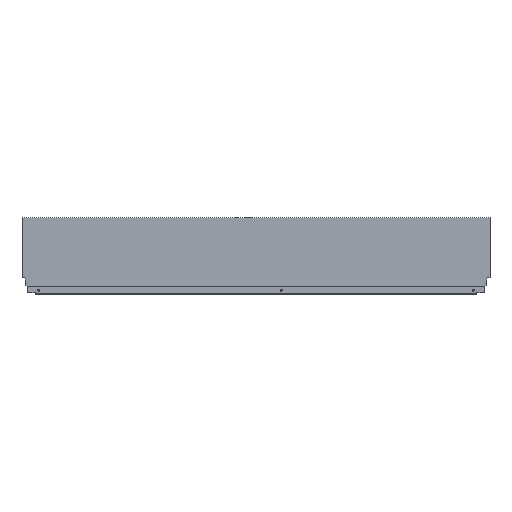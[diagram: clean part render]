
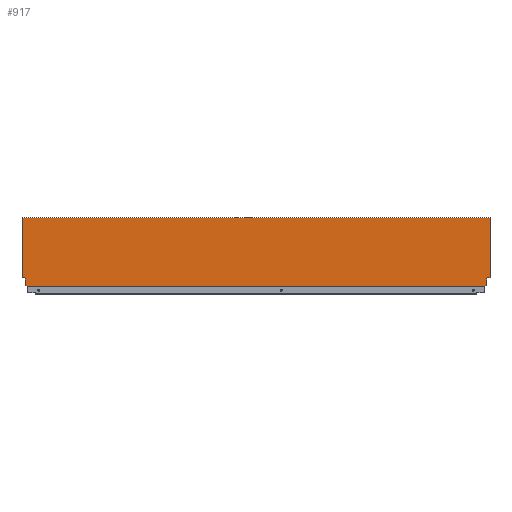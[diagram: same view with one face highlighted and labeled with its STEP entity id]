
A CAD part, top view. The second image highlights one B-rep face of the part: STEP entity #917.
In plain terms, the highlighted planar face has unit normal (0, 0, 1).
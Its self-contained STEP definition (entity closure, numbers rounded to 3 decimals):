
#12 = CARTESIAN_POINT ( 'NONE',  ( -13.004, 1.146, 7.5 ) ) ;
#13 = DIRECTION ( 'NONE',  ( 1., 0., 0. ) ) ;
#14 = CARTESIAN_POINT ( 'NONE',  ( -1117., 164.7, 7.5 ) ) ;
#17 = DIRECTION ( 'NONE',  ( -1., 0., 0. ) ) ;
#19 = CARTESIAN_POINT ( 'NONE',  ( 0., 21.2, 7.5 ) ) ;
#20 = CARTESIAN_POINT ( 'NONE',  ( -7.06, 21.2, 7.5 ) ) ;
#22 = CARTESIAN_POINT ( 'NONE',  ( 0., 0., 7.5 ) ) ;
#23 = DIRECTION ( 'NONE',  ( -0.174, -0.985, 0. ) ) ;
#24 = CARTESIAN_POINT ( 'NONE',  ( -8.9, 10.765, 7.5 ) ) ;
#25 = DIRECTION ( 'NONE',  ( 0., -1., 0. ) ) ;
#26 = CARTESIAN_POINT ( 'NONE',  ( -1122., 21.2, 7.5 ) ) ;
#27 = DIRECTION ( 'NONE',  ( -1., 0., 0. ) ) ;
#28 = CARTESIAN_POINT ( 'NONE',  ( -1117., 0., 7.5 ) ) ;
#30 = CARTESIAN_POINT ( 'NONE',  ( -1108.1, 2.64, 7.5 ) ) ;
#33 = DIRECTION ( 'NONE',  ( 0., -1., 0. ) ) ;
#34 = DIRECTION ( 'NONE',  ( -0.94, 0.342, 0. ) ) ;
#35 = CARTESIAN_POINT ( 'NONE',  ( -1108.1, 10.765, 7.5 ) ) ;
#161 = DIRECTION ( 'NONE',  ( 0., 1., 0. ) ) ;
#162 = CARTESIAN_POINT ( 'NONE',  ( -1109.94, 21.2, 7.5 ) ) ;
#164 = DIRECTION ( 'NONE',  ( -0.174, 0.985, 0. ) ) ;
#238 = CARTESIAN_POINT ( 'NONE',  ( -1103.996, 1.146, 7.5 ) ) ;
#244 = DIRECTION ( 'NONE',  ( 0., 1., 0. ) ) ;
#246 = DIRECTION ( 'NONE',  ( 0., -1., 0. ) ) ;
#247 = DIRECTION ( 'NONE',  ( 1., 0., 0. ) ) ;
#250 = DIRECTION ( 'NONE',  ( 0., -1., 0. ) ) ;
#251 = CARTESIAN_POINT ( 'NONE',  ( -1117., 0., 7.5 ) ) ;
#252 = DIRECTION ( 'NONE',  ( -0.94, -0.342, 0. ) ) ;
#253 = CARTESIAN_POINT ( 'NONE',  ( -8.9, 2.64, 7.5 ) ) ;
#280 = EDGE_LOOP ( 'NONE', ( #634, #635, #636, #619, #620, #721, #506, #507, #508, #509, #510, #512, #522, #523 ) ) ;
#506 = ORIENTED_EDGE ( 'NONE', *, *, #1463, .T. ) ;
#507 = ORIENTED_EDGE ( 'NONE', *, *, #1458, .F. ) ;
#508 = ORIENTED_EDGE ( 'NONE', *, *, #1456, .F. ) ;
#509 = ORIENTED_EDGE ( 'NONE', *, *, #1455, .F. ) ;
#510 = ORIENTED_EDGE ( 'NONE', *, *, #1453, .F. ) ;
#512 = ORIENTED_EDGE ( 'NONE', *, *, #1451, .F. ) ;
#522 = ORIENTED_EDGE ( 'NONE', *, *, #1454, .F. ) ;
#523 = ORIENTED_EDGE ( 'NONE', *, *, #1449, .F. ) ;
#619 = ORIENTED_EDGE ( 'NONE', *, *, #1460, .F. ) ;
#620 = ORIENTED_EDGE ( 'NONE', *, *, #1459, .F. ) ;
#634 = ORIENTED_EDGE ( 'NONE', *, *, #1457, .T. ) ;
#635 = ORIENTED_EDGE ( 'NONE', *, *, #1462, .F. ) ;
#636 = ORIENTED_EDGE ( 'NONE', *, *, #1461, .F. ) ;
#721 = ORIENTED_EDGE ( 'NONE', *, *, #1466, .F. ) ;
#798 = LINE ( 'NONE', #12, #821 ) ;
#800 = VECTOR ( 'NONE', #244, 1000. ) ;
#803 = LINE ( 'NONE', #14, #804 ) ;
#804 = VECTOR ( 'NONE', #13, 1000. ) ;
#806 = LINE ( 'NONE', #238, #800 ) ;
#807 = LINE ( 'NONE', #19, #808 ) ;
#808 = VECTOR ( 'NONE', #17, 1000. ) ;
#811 = LINE ( 'NONE', #20, #812 ) ;
#812 = VECTOR ( 'NONE', #23, 1000. ) ;
#813 = LINE ( 'NONE', #22, #814 ) ;
#814 = VECTOR ( 'NONE', #25, 1000. ) ;
#815 = LINE ( 'NONE', #24, #816 ) ;
#816 = VECTOR ( 'NONE', #246, 1000. ) ;
#817 = LINE ( 'NONE', #253, #818 ) ;
#818 = VECTOR ( 'NONE', #252, 1000. ) ;
#819 = LINE ( 'NONE', #251, #820 ) ;
#820 = VECTOR ( 'NONE', #250, 1000. ) ;
#821 = VECTOR ( 'NONE', #33, 1000. ) ;
#822 = LINE ( 'NONE', #30, #823 ) ;
#823 = VECTOR ( 'NONE', #34, 1000. ) ;
#824 = LINE ( 'NONE', #35, #825 ) ;
#825 = VECTOR ( 'NONE', #161, 1000. ) ;
#826 = LINE ( 'NONE', #162, #827 ) ;
#827 = VECTOR ( 'NONE', #164, 1000. ) ;
#828 = LINE ( 'NONE', #26, #829 ) ;
#829 = VECTOR ( 'NONE', #27, 1000. ) ;
#830 = LINE ( 'NONE', #28, #831 ) ;
#831 = VECTOR ( 'NONE', #247, 1000. ) ;
#868 = FACE_OUTER_BOUND ( 'NONE', #280, .T. ) ;
#917 = ADVANCED_FACE ( 'NONE', ( #868 ), #1178, .T. ) ;
#943 = VERTEX_POINT ( 'NONE', #1069 ) ;
#984 = CARTESIAN_POINT ( 'NONE',  ( -1108.1, 2.64, 7.5 ) ) ;
#994 = CARTESIAN_POINT ( 'NONE',  ( -8.9, 10.765, 7.5 ) ) ;
#1004 = CARTESIAN_POINT ( 'NONE',  ( -13.004, 0., 7.5 ) ) ;
#1006 = CARTESIAN_POINT ( 'NONE',  ( -1103.996, 0., 7.5 ) ) ;
#1007 = CARTESIAN_POINT ( 'NONE',  ( 0., 21.2, 7.5 ) ) ;
#1011 = CARTESIAN_POINT ( 'NONE',  ( -1108.1, 10.765, 7.5 ) ) ;
#1013 = CARTESIAN_POINT ( 'NONE',  ( -1117., 164.7, 7.5 ) ) ;
#1023 = CARTESIAN_POINT ( 'NONE',  ( -7.06, 21.2, 7.5 ) ) ;
#1025 = CARTESIAN_POINT ( 'NONE',  ( -8.9, 2.64, 7.5 ) ) ;
#1029 = CARTESIAN_POINT ( 'NONE',  ( -1109.94, 21.2, 7.5 ) ) ;
#1030 = CARTESIAN_POINT ( 'NONE',  ( -13.004, 1.146, 7.5 ) ) ;
#1031 = CARTESIAN_POINT ( 'NONE',  ( -1103.996, 1.146, 7.5 ) ) ;
#1050 = CARTESIAN_POINT ( 'NONE',  ( 0., 164.7, 7.5 ) ) ;
#1069 = CARTESIAN_POINT ( 'NONE',  ( -1117., 21.2, 7.5 ) ) ;
#1096 = VERTEX_POINT ( 'NONE', #1050 ) ;
#1166 = DIRECTION ( 'NONE',  ( 1., 0., 0. ) ) ;
#1167 = DIRECTION ( 'NONE',  ( 0., 0., 1. ) ) ;
#1175 = CARTESIAN_POINT ( 'NONE',  ( -1117., 0., 7.5 ) ) ;
#1178 = PLANE ( 'NONE',  #1498 ) ;
#1184 = VERTEX_POINT ( 'NONE', #1031 ) ;
#1189 = VERTEX_POINT ( 'NONE', #1030 ) ;
#1194 = VERTEX_POINT ( 'NONE', #1029 ) ;
#1212 = VERTEX_POINT ( 'NONE', #1025 ) ;
#1222 = VERTEX_POINT ( 'NONE', #1023 ) ;
#1271 = VERTEX_POINT ( 'NONE', #1013 ) ;
#1281 = VERTEX_POINT ( 'NONE', #1011 ) ;
#1316 = VERTEX_POINT ( 'NONE', #1007 ) ;
#1317 = VERTEX_POINT ( 'NONE', #1006 ) ;
#1319 = VERTEX_POINT ( 'NONE', #1004 ) ;
#1326 = VERTEX_POINT ( 'NONE', #994 ) ;
#1335 = VERTEX_POINT ( 'NONE', #984 ) ;
#1449 = EDGE_CURVE ( 'NONE', #1271, #1096, #803, .T. ) ;
#1451 = EDGE_CURVE ( 'NONE', #1316, #1222, #807, .T. ) ;
#1453 = EDGE_CURVE ( 'NONE', #1222, #1326, #811, .T. ) ;
#1454 = EDGE_CURVE ( 'NONE', #1096, #1316, #813, .T. ) ;
#1455 = EDGE_CURVE ( 'NONE', #1326, #1212, #815, .T. ) ;
#1456 = EDGE_CURVE ( 'NONE', #1212, #1189, #817, .T. ) ;
#1457 = EDGE_CURVE ( 'NONE', #1271, #943, #819, .T. ) ;
#1458 = EDGE_CURVE ( 'NONE', #1189, #1319, #798, .T. ) ;
#1459 = EDGE_CURVE ( 'NONE', #1184, #1335, #822, .T. ) ;
#1460 = EDGE_CURVE ( 'NONE', #1335, #1281, #824, .T. ) ;
#1461 = EDGE_CURVE ( 'NONE', #1281, #1194, #826, .T. ) ;
#1462 = EDGE_CURVE ( 'NONE', #1194, #943, #828, .T. ) ;
#1463 = EDGE_CURVE ( 'NONE', #1317, #1319, #830, .T. ) ;
#1466 = EDGE_CURVE ( 'NONE', #1317, #1184, #806, .T. ) ;
#1498 = AXIS2_PLACEMENT_3D ( 'NONE', #1175, #1167, #1166 ) ;
